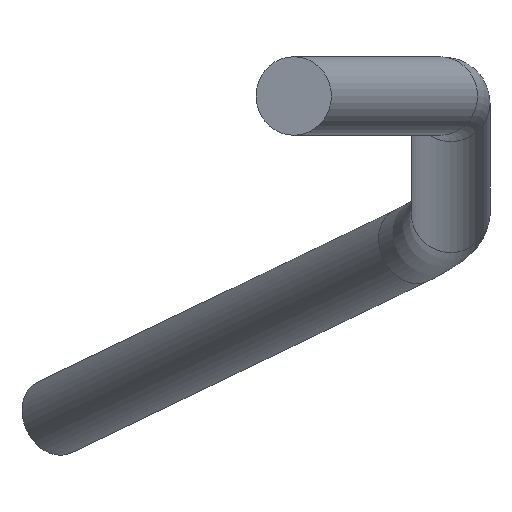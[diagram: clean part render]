
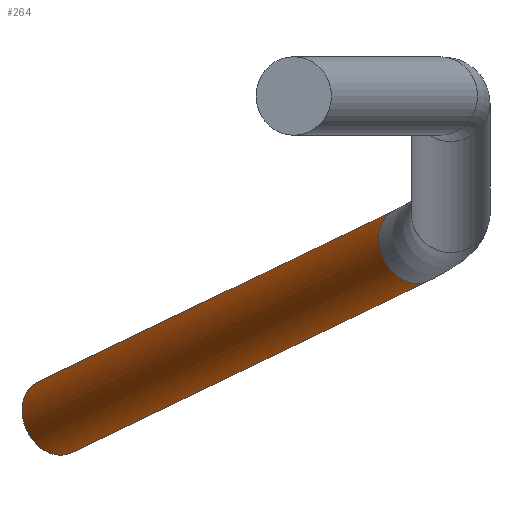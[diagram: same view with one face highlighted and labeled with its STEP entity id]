
A CAD part, front view. The second image highlights one B-rep face of the part: STEP entity #264.
In plain terms, the highlighted cylindrical face has radius 0.525 mm (diameter 1.05 mm), a full revolution.
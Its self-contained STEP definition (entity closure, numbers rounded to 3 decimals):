
#198 = TOROIDAL_SURFACE('',#199,3.,0.525);
#199 = AXIS2_PLACEMENT_3D('',#200,#201,#202);
#200 = CARTESIAN_POINT('',(31.07,14.952,
    -9.163));
#201 = DIRECTION('',(-0.215,0.177,0.96));
#202 = DIRECTION('',(0.977,0.039,0.212));
#215 = VERTEX_POINT('',#216);
#216 = CARTESIAN_POINT('',(33.904,17.023,
    -9.042));
#237 = EDGE_CURVE('',#215,#215,#238,.T.);
#238 = SURFACE_CURVE('',#239,(#244,#251),.PCURVE_S1.);
#239 = CIRCLE('',#240,0.525);
#240 = AXIS2_PLACEMENT_3D('',#241,#242,#243);
#241 = CARTESIAN_POINT('',(33.469,16.741,
    -8.955));
#242 = DIRECTION('',(0.561,-0.783,0.27));
#243 = DIRECTION('',(0.8,0.597,0.069));
#244 = PCURVE('',#198,#245);
#245 = DEFINITIONAL_REPRESENTATION('',(#246),#250);
#246 = LINE('',#247,#248);
#247 = CARTESIAN_POINT('',(0.612,0.));
#248 = VECTOR('',#249,1.);
#249 = DIRECTION('',(0.,1.));
#250 = ( GEOMETRIC_REPRESENTATION_CONTEXT(2) 
PARAMETRIC_REPRESENTATION_CONTEXT() REPRESENTATION_CONTEXT('2D SPACE',''
  ) );
#251 = PCURVE('',#252,#257);
#252 = CYLINDRICAL_SURFACE('',#253,0.525);
#253 = AXIS2_PLACEMENT_3D('',#254,#255,#256);
#254 = CARTESIAN_POINT('',(33.469,16.741,
    -8.955));
#255 = DIRECTION('',(-0.561,0.783,-0.27));
#256 = DIRECTION('',(0.828,0.536,-0.164));
#257 = DEFINITIONAL_REPRESENTATION('',(#258),#261);
#258 = B_SPLINE_CURVE_WITH_KNOTS('',1,(#259,#260),.UNSPECIFIED.,.F.,.F.,
  (2,2),(6.04,12.323),.PIECEWISE_BEZIER_KNOTS.);
#259 = CARTESIAN_POINT('',(6.283,0.));
#260 = CARTESIAN_POINT('',(0.,0.));
#261 = ( GEOMETRIC_REPRESENTATION_CONTEXT(2) 
PARAMETRIC_REPRESENTATION_CONTEXT() REPRESENTATION_CONTEXT('2D SPACE',''
  ) );
#264 = ADVANCED_FACE('',(#265),#252,.T.);
#265 = FACE_BOUND('',#266,.T.);
#266 = EDGE_LOOP('',(#267,#289,#316,#317));
#267 = ORIENTED_EDGE('',*,*,#268,.T.);
#268 = EDGE_CURVE('',#215,#269,#271,.T.);
#269 = VERTEX_POINT('',#270);
#270 = CARTESIAN_POINT('',(29.135,23.682,
    -11.336));
#271 = SEAM_CURVE('',#272,(#276,#282),.PCURVE_S1.);
#272 = LINE('',#273,#274);
#273 = CARTESIAN_POINT('',(33.904,17.023,
    -9.042));
#274 = VECTOR('',#275,1.);
#275 = DIRECTION('',(-0.561,0.783,-0.27));
#276 = PCURVE('',#252,#277);
#277 = DEFINITIONAL_REPRESENTATION('',(#278),#281);
#278 = B_SPLINE_CURVE_WITH_KNOTS('',1,(#279,#280),.UNSPECIFIED.,.F.,.F.,
  (2,2),(0.,8.506),.PIECEWISE_BEZIER_KNOTS.);
#279 = CARTESIAN_POINT('',(6.283,0.));
#280 = CARTESIAN_POINT('',(6.283,8.506));
#281 = ( GEOMETRIC_REPRESENTATION_CONTEXT(2) 
PARAMETRIC_REPRESENTATION_CONTEXT() REPRESENTATION_CONTEXT('2D SPACE',''
  ) );
#282 = PCURVE('',#252,#283);
#283 = DEFINITIONAL_REPRESENTATION('',(#284),#288);
#284 = LINE('',#285,#286);
#285 = CARTESIAN_POINT('',(0.,0.));
#286 = VECTOR('',#287,1.);
#287 = DIRECTION('',(0.,1.));
#288 = ( GEOMETRIC_REPRESENTATION_CONTEXT(2) 
PARAMETRIC_REPRESENTATION_CONTEXT() REPRESENTATION_CONTEXT('2D SPACE',''
  ) );
#289 = ORIENTED_EDGE('',*,*,#290,.F.);
#290 = EDGE_CURVE('',#269,#269,#291,.T.);
#291 = SURFACE_CURVE('',#292,(#297,#304),.PCURVE_S1.);
#292 = CIRCLE('',#293,0.525);
#293 = AXIS2_PLACEMENT_3D('',#294,#295,#296);
#294 = CARTESIAN_POINT('',(28.7,23.4,-11.25));
#295 = DIRECTION('',(-0.561,0.783,-0.27));
#296 = DIRECTION('',(0.828,0.536,-0.164));
#297 = PCURVE('',#252,#298);
#298 = DEFINITIONAL_REPRESENTATION('',(#299),#303);
#299 = LINE('',#300,#301);
#300 = CARTESIAN_POINT('',(0.,8.506));
#301 = VECTOR('',#302,1.);
#302 = DIRECTION('',(1.,0.));
#303 = ( GEOMETRIC_REPRESENTATION_CONTEXT(2) 
PARAMETRIC_REPRESENTATION_CONTEXT() REPRESENTATION_CONTEXT('2D SPACE',''
  ) );
#304 = PCURVE('',#305,#310);
#305 = PLANE('',#306);
#306 = AXIS2_PLACEMENT_3D('',#307,#308,#309);
#307 = CARTESIAN_POINT('',(28.7,23.4,-11.25));
#308 = DIRECTION('',(-0.561,0.783,-0.27));
#309 = DIRECTION('',(0.813,0.582,0.));
#310 = DEFINITIONAL_REPRESENTATION('',(#311),#315);
#311 = CIRCLE('',#312,0.525);
#312 = AXIS2_PLACEMENT_2D('',#313,#314);
#313 = CARTESIAN_POINT('',(0.,0.));
#314 = DIRECTION('',(0.985,0.17));
#315 = ( GEOMETRIC_REPRESENTATION_CONTEXT(2) 
PARAMETRIC_REPRESENTATION_CONTEXT() REPRESENTATION_CONTEXT('2D SPACE',''
  ) );
#316 = ORIENTED_EDGE('',*,*,#268,.F.);
#317 = ORIENTED_EDGE('',*,*,#237,.F.);
